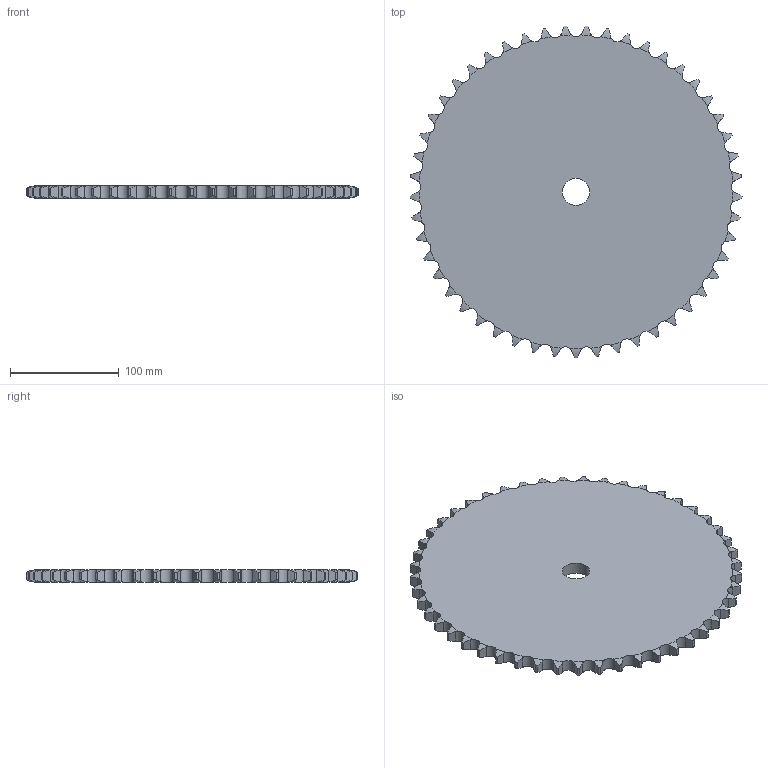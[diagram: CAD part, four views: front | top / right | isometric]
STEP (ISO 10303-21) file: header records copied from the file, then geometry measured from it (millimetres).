
FILE_DESCRIPTION((''),'2;1');
FILE_NAME('500-401-0049_PRT','2021-02-12T',('Brieden'),('Brieden'),'PRO/ENGINEER BY PARAMETRIC TECHNOLOGY CORPORATION, 2010160','PRO/ENGINEER BY PARAMETRIC TECHNOLOGY CORPORATION, 2010160','');
FILE_SCHEMA(('AUTOMOTIVE_DESIGN { 1 0 10303 214 1 1 1 1 }'));
Length unit declared in the file: millimetre
Products named in the file (1): 500-401-0049_PRT
Bounding box: 304.83 x 304.68 x 11.1 mm (x, y, z)
Volume: 739249.7 mm3; surface area: 149212.4 mm2
Topology: 1 solids, 1 shells, 298 faces, 888 edges, 592 vertices
Faces by surface type: cylinder 198, torus 98, plane 2
Entity records: 14796 total; most frequent: CARTESIAN_POINT 4533, ORIENTED_EDGE 1776, DIRECTION 1390, PRESENTATION_STYLE_ASSIGNMENT 889, STYLED_ITEM 889, CURVE_STYLE 888, EDGE_CURVE 888, AXIS2_PLACEMENT_3D 596
